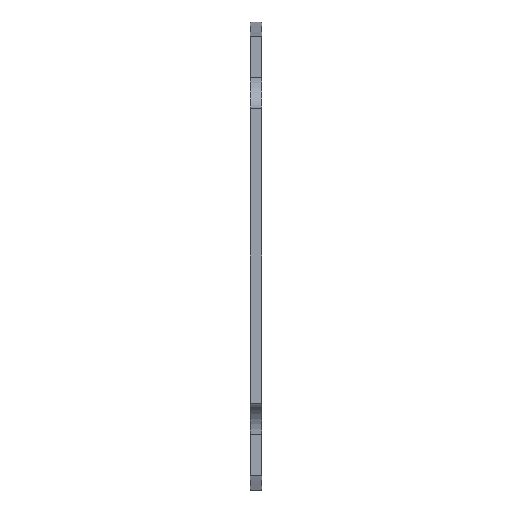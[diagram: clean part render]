
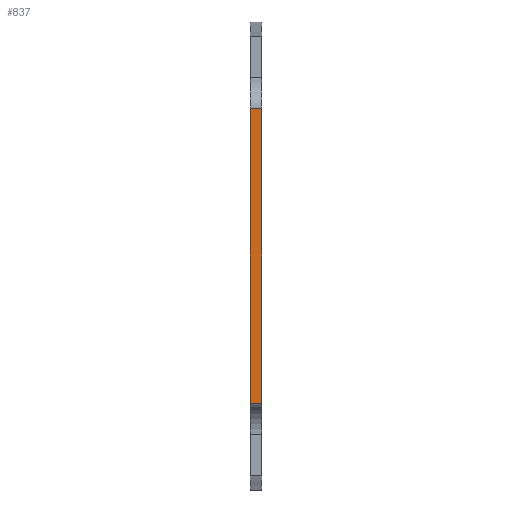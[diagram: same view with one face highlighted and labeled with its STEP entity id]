
A CAD part, left-side view. The second image highlights one B-rep face of the part: STEP entity #837.
In plain terms, the highlighted planar face has unit normal (-1, 0, 0).
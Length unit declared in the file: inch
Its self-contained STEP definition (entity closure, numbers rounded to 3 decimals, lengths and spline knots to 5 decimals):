
#27 = VECTOR ( 'NONE', #41, 39.37008 ) ;
#41 = DIRECTION ( 'NONE',  ( 0., 1., 0. ) ) ;
#54 = VECTOR ( 'NONE', #237, 39.37008 ) ;
#75 = VECTOR ( 'NONE', #674, 39.37008 ) ;
#77 = CARTESIAN_POINT ( 'NONE',  ( -2.86539, 0.164, -0.80939 ) ) ;
#88 = CARTESIAN_POINT ( 'NONE',  ( -2.86539, 0.227, 0.80939 ) ) ;
#145 = LINE ( 'NONE', #206, #391 ) ;
#195 = EDGE_CURVE ( 'NONE', #927, #635, #754, .T. ) ;
#206 = CARTESIAN_POINT ( 'NONE',  ( -2.86539, 0.164, -0.80939 ) ) ;
#210 = ORIENTED_EDGE ( 'NONE', *, *, #721, .F. ) ;
#214 = LINE ( 'NONE', #636, #54 ) ;
#228 = DIRECTION ( 'NONE',  ( 0., 1., 0. ) ) ;
#237 = DIRECTION ( 'NONE',  ( 0., 0., -1. ) ) ;
#242 = EDGE_CURVE ( 'NONE', #407, #521, #214, .T. ) ;
#251 = CARTESIAN_POINT ( 'NONE',  ( -2.86539, 0.164, -0.80939 ) ) ;
#270 = CARTESIAN_POINT ( 'NONE',  ( -2.86539, 0.227, -0.80939 ) ) ;
#328 = FACE_OUTER_BOUND ( 'NONE', #541, .T. ) ;
#357 = CARTESIAN_POINT ( 'NONE',  ( -2.86539, 0.227, -0.80939 ) ) ;
#370 = ORIENTED_EDGE ( 'NONE', *, *, #242, .F. ) ;
#383 = LINE ( 'NONE', #690, #27 ) ;
#391 = VECTOR ( 'NONE', #228, 39.37008 ) ;
#407 = VERTEX_POINT ( 'NONE', #481 ) ;
#481 = CARTESIAN_POINT ( 'NONE',  ( -2.86539, 0.164, 0.80939 ) ) ;
#484 = ORIENTED_EDGE ( 'NONE', *, *, #195, .T. ) ;
#521 = VERTEX_POINT ( 'NONE', #251 ) ;
#541 = EDGE_LOOP ( 'NONE', ( #484, #210, #370, #761 ) ) ;
#635 = VERTEX_POINT ( 'NONE', #270 ) ;
#636 = CARTESIAN_POINT ( 'NONE',  ( -2.86539, 0.164, -0.80939 ) ) ;
#674 = DIRECTION ( 'NONE',  ( 0., 0., -1. ) ) ;
#690 = CARTESIAN_POINT ( 'NONE',  ( -2.86539, 0.164, 0.80939 ) ) ;
#721 = EDGE_CURVE ( 'NONE', #521, #635, #145, .T. ) ;
#726 = EDGE_CURVE ( 'NONE', #407, #927, #383, .T. ) ;
#745 = AXIS2_PLACEMENT_3D ( 'NONE', #77, #873, #790 ) ;
#754 = LINE ( 'NONE', #357, #75 ) ;
#761 = ORIENTED_EDGE ( 'NONE', *, *, #726, .T. ) ;
#790 = DIRECTION ( 'NONE',  ( 0., 0., -1. ) ) ;
#808 = PLANE ( 'NONE',  #745 ) ;
#837 = ADVANCED_FACE ( 'NONE', ( #328 ), #808, .F. ) ;
#873 = DIRECTION ( 'NONE',  ( 1., 0., 0. ) ) ;
#927 = VERTEX_POINT ( 'NONE', #88 ) ;
